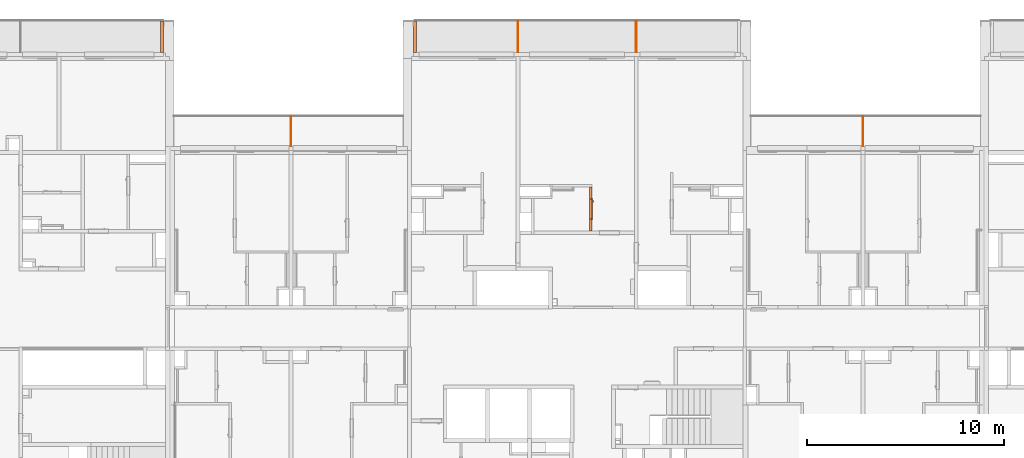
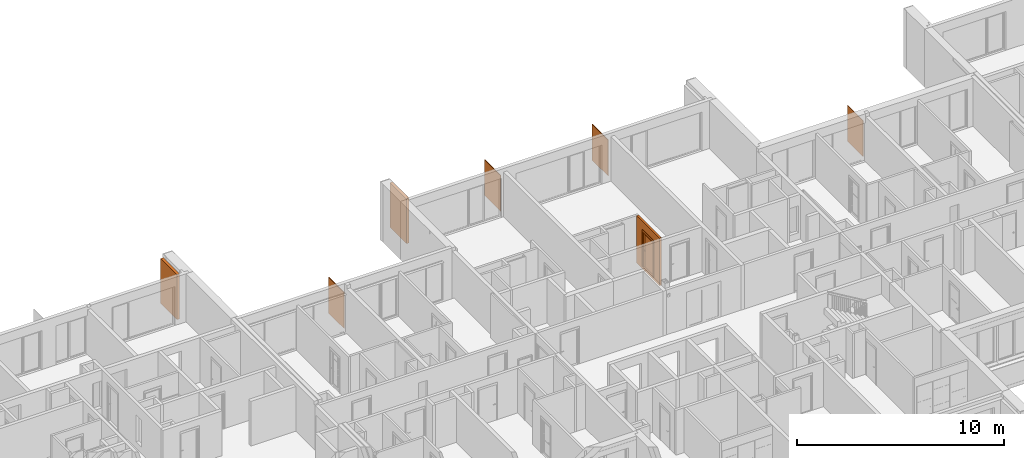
# One storey, part 33 of 67: 8 proxies, 1 opening.
"""IFC2X3 building model written with IfcOpenShell, lengths in millimetres."""

from ifc_helpers import new_model, entity, si_unit, converted_unit, derived_unit, money_unit, direction, frame, origin_with_axes, origin_2d_with_axis, place, context, subcontext, project, spatial, polyline, rectangle, outline, extrude, open_shell, faceted_brep, surface_model, source, transform, mapped, material, type_object, element, fill, save


model = new_model("IFC2X3")

# Units and contexts
model_context = context("Model", 3, precision=0.01, world=origin_with_axes(), true_north=direction((0.34421633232, 0.938890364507)))
body_context = subcontext(model_context, "Body", "Model", "MODEL_VIEW")
ifc_project = project(units=[si_unit("LENGTHUNIT", "METRE", prefix="MILLI"), si_unit("AREAUNIT", "SQUARE_METRE"), si_unit("VOLUMEUNIT", "CUBIC_METRE"), converted_unit("PLANEANGLEUNIT", "DEGREE", entity("IfcPlaneAngleMeasure", 0.0174532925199), si_unit("PLANEANGLEUNIT", "RADIAN"), dimensions=[0, 0, 0, 0, 0, 0, 0]), si_unit("SOLIDANGLEUNIT", "STERADIAN"), money_unit("USD"), converted_unit("TIMEUNIT", "Year", entity("IfcTimeMeasure", 31556926.0), si_unit("TIMEUNIT", "SECOND"), dimensions=[0, 0, 1, 0, 0, 0, 0]), si_unit("MASSUNIT", "GRAM", prefix="KILO"), si_unit("THERMODYNAMICTEMPERATUREUNIT", "DEGREE_CELSIUS"), si_unit("LUMINOUSINTENSITYUNIT", "LUMEN"), si_unit("ENERGYUNIT", "JOULE", prefix="MEGA"), derived_unit("THERMALCONDUCTANCEUNIT", [(si_unit("POWERUNIT", "WATT"), 1), (si_unit("LENGTHUNIT", "METRE"), -1), (si_unit("THERMODYNAMICTEMPERATUREUNIT", "KELVIN"), -1)]), derived_unit("SPECIFICHEATCAPACITYUNIT", [(si_unit("ENERGYUNIT", "JOULE"), 1), (si_unit("MASSUNIT", "GRAM", prefix="KILO"), -1), (si_unit("THERMODYNAMICTEMPERATUREUNIT", "KELVIN"), -1)]), derived_unit("MASSDENSITYUNIT", [(si_unit("MASSUNIT", "GRAM", prefix="KILO"), 1), (si_unit("VOLUMEUNIT", "CUBIC_METRE"), -1)])], contexts=[model_context])

# Site, building, storey
site_placement = place(None, origin_with_axes())
site = spatial("IfcSite", under=ifc_project, at=site_placement, Name="USTRONIE MORSKIE", CompositionType="ELEMENT")
building_placement = place(site_placement, origin_with_axes())
building = spatial("IfcBuilding", under=site, at=building_placement, Name="Budynek", CompositionType="ELEMENT")
storey_placement = place(building_placement, frame((0.0, 0.0, 4000.0), z_axis=(0.0, 0.0, 1.0), x_axis=(1.0, 0.0, 0.0)))
storey = spatial("IfcBuildingStorey", under=building, at=storey_placement, Name="PIĘTRO 1", CompositionType="ELEMENT", Elevation=4000.0)

# Proxies, opening
ifc_material_1 = material(Name="Bloczki silikatowe")
building_element_proxy_type_1 = type_object("IfcBuildingElementProxyType", Name="Bloczki silikatowe 120", PredefinedType="NOTDEFINED")
proxy_1_placement = place(storey_placement, frame((388517.920919, 743001.199021, -160.0), z_axis=(0.0, 0.0, 1.0), x_axis=(0.0, -1.0, 0.0)))
proxy_1 = element("IfcBuildingElementProxy", 1, at=proxy_1_placement, inside=storey, type_object=building_element_proxy_type_1, material=ifc_material_1, Name="SW-04", context=body_context, shape_type="Brep", body=[
    faceted_brep([(59.9999999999, -60.0, 0.0), (59.9999999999, -60.0, 2800.0), (59.9999999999, 60.0, 2800.0), (59.9999999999, 60.0, 0.0), (2279.99998521, -60.0, 0.0), (2279.99998521, -60.0, 2800.0), (2279.99998521, 60.0, 2800.0), (2279.99998521, 60.0, 0.0)], [[[0, 1, 2, 3]], [[4, 5, 1, 0]], [[5, 6, 2, 1]], [[3, 2, 6, 7]], [[0, 3, 7, 4]], [[7, 6, 5, 4]]]),
])
opening_placement = place(proxy_1_placement, frame((1170.0, 0.0, 160.0), z_axis=(0.0, 0.0, 1.0), x_axis=(1.0, 0.0, 0.0)))
opening = element("IfcOpeningElement", 2, at=opening_placement, cuts=proxy_1, Name="Dw.4'", context=body_context, shape_type="SweptSolid", body=[
    extrude(rectangle(XDim=1020.0, YDim=2070.0, at=origin_2d_with_axis()), frame((0.0, 120.0, 1035.0), z_axis=(0.0, -1.0, 0.0), x_axis=(1.0, 0.0, 0.0)), (0.0, 0.0, 1.0), 360.0),
    extrude(rectangle(XDim=1094.0, YDim=2177.0, at=origin_2d_with_axis()), frame((0.0, 60.0, 1088.5), z_axis=(0.0, -1.0, 0.0), x_axis=(1.0, 0.0, 0.0)), (0.0, 0.0, -1.0), 120.0),
    extrude(rectangle(XDim=1094.0, YDim=2177.0, at=origin_2d_with_axis()), frame((0.0, -60.0, 1088.5), z_axis=(0.0, 1.0, 0.0), x_axis=(1.0, 0.0, 0.0)), (0.0, 0.0, -1.0), 120.0),
])
building_element_proxy_type_2 = type_object("IfcBuildingElementProxyType", Name="Drzwi 23", PredefinedType="NOTDEFINED")
shared_shape = source(origin_with_axes(), body_context, "Body", "SurfaceModel", [
    faceted_brep([(-510.0, 0.0, 0.0), (-510.0, 5.0, 0.0), (-485.0, 5.0, 0.0), (-485.0, 0.0, 0.0), (-510.0, 0.0, 2070.0), (-510.0, 5.0, 2070.0), (-485.0, 5.0, 2045.0), (-485.0, 0.0, 2045.0)], [[[0, 1, 2, 3]], [[4, 5, 1, 0]], [[1, 5, 6, 2]], [[3, 2, 6, 7]], [[0, 3, 7, 4]], [[7, 6, 5, 4]]]),
    faceted_brep([(510.0, 0.0, 2070.0), (510.0, 5.0, 2070.0), (485.0, 5.0, 2045.0), (485.0, 0.0, 2045.0), (510.0, 0.0, 0.0), (510.0, 5.0, 0.0), (485.0, 5.0, 0.0), (485.0, 0.0, 0.0)], [[[0, 1, 2, 3]], [[4, 5, 1, 0]], [[1, 5, 6, 2]], [[3, 2, 6, 7]], [[0, 3, 7, 4]], [[7, 6, 5, 4]]]),
    faceted_brep([(-485.0, 0.0, 2045.0), (-485.0, 5.0, 2045.0), (485.0, 5.0, 2045.0), (485.0, 0.0, 2045.0), (-510.0, 0.0, 2070.0), (-510.0, 5.0, 2070.0), (510.0, 5.0, 2070.0), (510.0, 0.0, 2070.0)], [[[0, 1, 2, 3]], [[4, 5, 1, 0]], [[1, 5, 6, 2]], [[3, 2, 6, 7]], [[0, 3, 7, 4]], [[7, 6, 5, 4]]]),
    faceted_brep([(-547.0, 24.0, 0.0), (-497.0, 24.0, 0.0), (-497.0, 5.0, 0.0), (-547.0, 5.0, 0.0), (-547.0, 24.0, 2177.0), (-497.0, 24.0, 2057.0), (-497.0, 5.0, 2057.0), (-547.0, 5.0, 2177.0)], [[[0, 1, 2, 3]], [[0, 4, 5, 1]], [[1, 5, 6, 2]], [[3, 2, 6, 7]], [[4, 0, 3, 7]], [[5, 4, 7, 6]]]),
    faceted_brep([(547.0, 24.0, 2177.0), (497.0, 24.0, 2057.0), (497.0, 5.0, 2057.0), (547.0, 5.0, 2177.0), (547.0, 24.0, 0.0), (497.0, 24.0, 0.0), (497.0, 5.0, 0.0), (547.0, 5.0, 0.0)], [[[0, 1, 2, 3]], [[0, 4, 5, 1]], [[1, 5, 6, 2]], [[3, 2, 6, 7]], [[4, 0, 3, 7]], [[5, 4, 7, 6]]]),
    faceted_brep([(-547.0, 24.0, 2177.0), (-497.0, 24.0, 2057.0), (-497.0, 5.0, 2057.0), (-547.0, 5.0, 2177.0), (547.0, 24.0, 2177.0), (497.0, 24.0, 2057.0), (497.0, 5.0, 2057.0), (547.0, 5.0, 2177.0)], [[[0, 1, 2, 3]], [[0, 4, 5, 1]], [[1, 5, 6, 2]], [[3, 2, 6, 7]], [[4, 0, 3, 7]], [[5, 4, 7, 6]]]),
    faceted_brep([(-547.0, -134.0, 0.0), (-547.0, -115.0, 0.0), (-497.0, -115.0, 0.0), (-497.0, -134.0, 0.0), (-547.0, -134.0, 2177.0), (-547.0, -115.0, 2177.0), (-497.0, -115.0, 2057.0), (-497.0, -134.0, 2057.0)], [[[0, 1, 2, 3]], [[4, 5, 1, 0]], [[1, 5, 6, 2]], [[3, 2, 6, 7]], [[0, 3, 7, 4]], [[7, 6, 5, 4]]]),
    faceted_brep([(547.0, -134.0, 2177.0), (547.0, -115.0, 2177.0), (497.0, -115.0, 2057.0), (497.0, -134.0, 2057.0), (547.0, -134.0, 0.0), (547.0, -115.0, 0.0), (497.0, -115.0, 0.0), (497.0, -134.0, 0.0)], [[[0, 1, 2, 3]], [[4, 5, 1, 0]], [[1, 5, 6, 2]], [[3, 2, 6, 7]], [[0, 3, 7, 4]], [[7, 6, 5, 4]]]),
    faceted_brep([(-547.0, -134.0, 2177.0), (-547.0, -115.0, 2177.0), (-497.0, -115.0, 2057.0), (-497.0, -134.0, 2057.0), (547.0, -134.0, 2177.0), (547.0, -115.0, 2177.0), (497.0, -115.0, 2057.0), (497.0, -134.0, 2057.0)], [[[0, 1, 2, 3]], [[4, 5, 1, 0]], [[1, 5, 6, 2]], [[3, 2, 6, 7]], [[0, 3, 7, 4]], [[7, 6, 5, 4]]]),
    faceted_brep([(-450.0, -40.0, 0.0), (-450.0, -40.0, 2000.0), (-450.0, -115.0, 2000.0), (-450.0, -115.0, 0.0), (-462.0, -40.0, 2000.0), (-462.0, -40.0, 0.0), (-462.0, 0.0, 2000.0), (-510.0, 0.0, 2000.0), (-510.0, -115.0, 2000.0), (-510.0, -115.0, 0.0), (-510.0, 0.0, 0.0), (-462.0, 0.0, 0.0)], [[[0, 1, 2, 3]], [[4, 1, 0, 5]], [[4, 6, 7, 8, 2, 1]], [[3, 2, 8, 9]], [[5, 0, 3, 9, 10, 11]], [[6, 4, 5, 11]], [[6, 11, 10, 7]], [[10, 9, 8, 7]]]),
    faceted_brep([(462.0, -40.0, 2000.0), (450.0, -40.0, 2000.0), (450.0, -115.0, 2000.0), (510.0, -115.0, 2000.0), (510.0, 0.0, 2000.0), (462.0, 0.0, 2000.0), (462.0, -40.0, 0.0), (450.0, -40.0, 0.0), (450.0, -115.0, 0.0), (510.0, -115.0, 0.0), (510.0, 0.0, 0.0), (462.0, 0.0, 0.0)], [[[0, 1, 2, 3, 4, 5]], [[1, 0, 6, 7]], [[1, 7, 8, 2]], [[3, 2, 8, 9]], [[4, 3, 9, 10]], [[11, 5, 4, 10]], [[0, 5, 11, 6]], [[6, 11, 10, 9, 8, 7]]]),
    faceted_brep([(-462.0, 0.0, 2012.0), (-462.0, 0.0, 2000.0), (-510.0, 0.0, 2000.0), (-510.0, 0.0, 2070.0), (510.0, 0.0, 2070.0), (510.0, 0.0, 2000.0), (462.0, 0.0, 2000.0), (462.0, 0.0, 2012.0), (-462.0, -40.0, 2012.0), (-462.0, -40.0, 2000.0), (-450.0, -40.0, 2000.0), (-450.0, -115.0, 2000.0), (-510.0, -115.0, 2000.0), (-510.0, -115.0, 2070.0), (510.0, -115.0, 2070.0), (510.0, -115.0, 2000.0), (462.0, -40.0, 2000.0), (450.0, -115.0, 2000.0), (450.0, -40.0, 2000.0), (462.0, -40.0, 2012.0)], [[[0, 1, 2, 3, 4, 5, 6, 7]], [[1, 0, 8, 9]], [[9, 10, 11, 12, 2, 1]], [[2, 12, 13, 3]], [[3, 13, 14, 4]], [[4, 14, 15, 5]], [[16, 6, 5, 15, 17, 18]], [[7, 6, 16, 19]], [[0, 7, 19, 8]], [[16, 18, 10, 9, 8, 19]], [[10, 18, 17, 11]], [[17, 15, 14, 13, 12, 11]]]),
    faceted_brep([(-440.5, -40.0, 1060.0), (-440.5, -43.0, 1060.0), (-383.5, -43.0, 1060.0), (-383.5, -40.0, 1060.0), (-440.5, -40.0, 870.0), (-440.5, -43.0, 870.0), (-383.5, -43.0, 870.0), (-383.5, -40.0, 870.0)], [[[0, 1, 2, 3]], [[4, 5, 1, 0]], [[1, 5, 6, 2]], [[3, 2, 6, 7]], [[0, 3, 7, 4]], [[7, 6, 5, 4]]]),
    faceted_brep([(-412.0, -104.0, 990.0), (-412.0, -111.0, 990.0), (-417.0, -111.0, 991.339745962), (-417.0, -104.0, 991.339745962), (-387.0, -104.0, 990.0), (-387.0, -111.0, 990.0), (-387.0, -111.0, 1010.0), (-412.0, -111.0, 1010.0), (-417.0, -111.0, 1008.66025404), (-420.660254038, -111.0, 1005.0), (-422.0, -111.0, 1000.0), (-420.660254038, -111.0, 995.0), (-420.660254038, -104.0, 995.0), (-422.0, -104.0, 1000.0), (-420.660254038, -104.0, 1005.0), (-417.0, -104.0, 1008.66025404), (-412.0, -104.0, 1010.0), (-387.0, -104.0, 1010.0)], [[[0, 1, 2, 3]], [[4, 5, 1, 0]], [[1, 5, 6, 7, 8, 9, 10, 11, 2]], [[3, 2, 11, 12]], [[0, 3, 12, 13, 14, 15, 16, 17, 4]], [[17, 6, 5, 4]], [[16, 7, 6, 17]], [[15, 8, 7, 16]], [[14, 9, 8, 15]], [[13, 10, 9, 14]], [[12, 11, 10, 13]]]),
    surface_model("IfcShellBasedSurfaceModel", [(-387.0, -104.0, 1010.0), (-373.596090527, -111.0, 1009.60730092), (-373.901717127, -104.0, 1009.60730092), (-387.0, -111.0, 1010.0), (-346.890283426, -108.663544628, 1008.82190275), (-373.901717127, -104.0, 990.392699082), (-387.0, -104.0, 990.0), (-387.0, -111.0, 990.0), (-373.596090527, -111.0, 990.392699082), (-346.890283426, -108.663544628, 991.178097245), (-347.804837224, -101.716818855, 1008.82190275), (-347.804837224, -101.716818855, 991.178097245), (-320.489735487, -104.008415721, 991.963495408), (-320.489735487, -104.008415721, 1008.03650459), (-322.006256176, -97.1678329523, 1008.03650459), (-322.006256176, -97.1678329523, 991.963495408), (-294.59537082, -97.0700416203, 992.748893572), (-294.59537082, -97.0700416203, 1007.25110643), (-296.702316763, -90.3876628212, 1007.25110643), (-296.702316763, -90.3876628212, 992.748893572), (-286.538795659, -94.1376880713, 993.0), (-286.538795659, -94.1376880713, 1007.0), (-288.829442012, -87.5221707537, 1007.0), (-288.829442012, -87.5221707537, 993.0)], [open_shell([[[0, 1, 2]], [[0, 3, 1]], [[2, 1, 4]], [[0, 2, 5, 6]], [[3, 7, 8, 1]], [[1, 8, 9, 4]], [[2, 4, 10]], [[2, 10, 11, 5]], [[5, 7, 6]], [[5, 8, 7]], [[11, 9, 8]], [[4, 9, 12, 13]], [[10, 4, 13]], [[10, 14, 15, 11]], [[11, 8, 5]], [[15, 9, 11]], [[15, 12, 9]], [[13, 12, 16, 17]], [[10, 13, 14]], [[14, 18, 19, 15]], [[19, 12, 15]], [[19, 16, 12]], [[17, 16, 20, 21]], [[14, 13, 17]], [[14, 17, 18]], [[18, 22, 23, 19]], [[23, 16, 19]], [[23, 20, 16]], [[22, 21, 20, 23]], [[18, 17, 21]], [[18, 21, 22]]])]),
    faceted_brep([(-401.607695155, -53.0, 994.0), (-400.741669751, -43.0, 993.5), (-399.0, -43.0, 1000.0), (-400.0, -53.0, 1000.0), (-406.0, -53.0, 989.607695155), (-405.5, -43.0, 988.741669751), (-412.0, -43.0, 987.0), (-418.5, -43.0, 988.741669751), (-423.258330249, -43.0, 993.5), (-425.0, -43.0, 1000.0), (-423.258330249, -43.0, 1006.5), (-418.5, -43.0, 1011.25833025), (-412.0, -43.0, 1013.0), (-405.5, -43.0, 1011.25833025), (-400.741669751, -43.0, 1006.5), (-401.607695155, -53.0, 1006.0), (-406.0, -53.0, 1010.39230485), (-412.0, -53.0, 1012.0), (-418.0, -53.0, 1010.39230485), (-422.392304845, -53.0, 1006.0), (-424.0, -53.0, 1000.0), (-422.392304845, -53.0, 994.0), (-418.0, -53.0, 989.607695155), (-412.0, -53.0, 988.0)], [[[0, 1, 2, 3]], [[4, 5, 1, 0]], [[2, 1, 5, 6, 7, 8, 9, 10, 11, 12, 13, 14]], [[3, 2, 14, 15]], [[3, 15, 16, 17, 18, 19, 20, 21, 22, 23, 4, 0]], [[23, 6, 5, 4]], [[22, 7, 6, 23]], [[21, 8, 7, 22]], [[20, 9, 8, 21]], [[19, 10, 9, 20]], [[18, 11, 10, 19]], [[17, 12, 11, 18]], [[16, 13, 12, 17]], [[15, 14, 13, 16]]]),
    faceted_brep([(-394.679491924, -47.0, 895.0), (-392.947441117, -43.0, 894.0), (-390.0, -43.0, 905.0), (-392.0, -47.0, 905.0), (-402.0, -47.0, 887.679491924), (-401.0, -43.0, 885.947441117), (-412.0, -43.0, 883.0), (-423.0, -43.0, 885.947441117), (-431.052558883, -43.0, 894.0), (-434.0, -43.0, 905.0), (-431.052558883, -43.0, 916.0), (-423.0, -43.0, 924.052558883), (-412.0, -43.0, 927.0), (-401.0, -43.0, 924.052558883), (-392.947441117, -43.0, 916.0), (-394.679491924, -47.0, 915.0), (-402.0, -47.0, 922.320508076), (-412.0, -47.0, 925.0), (-422.0, -47.0, 922.320508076), (-429.320508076, -47.0, 915.0), (-432.0, -47.0, 905.0), (-429.320508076, -47.0, 895.0), (-422.0, -47.0, 887.679491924), (-412.0, -47.0, 885.0)], [[[0, 1, 2, 3]], [[4, 5, 1, 0]], [[2, 1, 5, 6, 7, 8, 9, 10, 11, 12, 13, 14]], [[3, 2, 14, 15]], [[3, 15, 16, 17, 18, 19, 20, 21, 22, 23, 4, 0]], [[23, 6, 5, 4]], [[22, 7, 6, 23]], [[21, 8, 7, 22]], [[20, 9, 8, 21]], [[19, 10, 9, 20]], [[18, 11, 10, 19]], [[17, 12, 11, 18]], [[16, 13, 12, 17]], [[15, 14, 13, 16]]]),
    faceted_brep([(-407.050252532, -49.0, 909.050252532), (-406.343145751, -47.0, 908.343145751), (-404.0, -47.0, 914.0), (-405.0, -49.0, 914.0), (-412.0, -49.0, 907.0), (-412.0, -47.0, 906.0), (-417.656854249, -47.0, 908.343145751), (-420.0, -47.0, 914.0), (-417.656854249, -47.0, 919.656854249), (-412.0, -47.0, 922.0), (-406.343145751, -47.0, 919.656854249), (-407.050252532, -49.0, 918.949747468), (-412.0, -49.0, 921.0), (-416.949747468, -49.0, 918.949747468), (-419.0, -49.0, 914.0), (-416.949747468, -49.0, 909.050252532)], [[[0, 1, 2, 3]], [[4, 5, 1, 0]], [[2, 1, 5, 6, 7, 8, 9, 10]], [[3, 2, 10, 11]], [[3, 11, 12, 13, 14, 15, 4, 0]], [[15, 6, 5, 4]], [[14, 7, 6, 15]], [[13, 8, 7, 14]], [[12, 9, 8, 13]], [[11, 10, 9, 12]]]),
    faceted_brep([(-412.0, -53.0, 1010.0), (-412.0, -104.0, 1010.0), (-407.0, -104.0, 1008.66025404), (-407.0, -53.0, 1008.66025404), (-417.0, -53.0, 1008.66025404), (-417.0, -104.0, 1008.66025404), (-420.660254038, -104.0, 1005.0), (-422.0, -104.0, 1000.0), (-420.660254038, -104.0, 995.0), (-417.0, -104.0, 991.339745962), (-412.0, -104.0, 990.0), (-407.0, -104.0, 991.339745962), (-403.339745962, -104.0, 995.0), (-402.0, -104.0, 1000.0), (-403.339745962, -104.0, 1005.0), (-403.339745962, -53.0, 1005.0), (-402.0, -53.0, 1000.0), (-403.339745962, -53.0, 995.0), (-407.0, -53.0, 991.339745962), (-412.0, -53.0, 990.0), (-417.0, -53.0, 991.339745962), (-420.660254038, -53.0, 995.0), (-422.0, -53.0, 1000.0), (-420.660254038, -53.0, 1005.0)], [[[0, 1, 2, 3]], [[4, 5, 1, 0]], [[1, 5, 6, 7, 8, 9, 10, 11, 12, 13, 14, 2]], [[3, 2, 14, 15]], [[0, 3, 15, 16, 17, 18, 19, 20, 21, 22, 23, 4]], [[23, 6, 5, 4]], [[22, 7, 6, 23]], [[21, 8, 7, 22]], [[20, 9, 8, 21]], [[19, 10, 9, 20]], [[18, 11, 10, 19]], [[17, 12, 11, 18]], [[16, 13, 12, 17]], [[15, 14, 13, 16]]]),
    faceted_brep([(-440.5, 0.0, 1060.0), (-383.5, 0.0, 1060.0), (-383.5, 3.0, 1060.0), (-440.5, 3.0, 1060.0), (-440.5, 0.0, 870.0), (-383.5, 0.0, 870.0), (-383.5, 3.0, 870.0), (-440.5, 3.0, 870.0)], [[[0, 1, 2, 3]], [[0, 4, 5, 1]], [[1, 5, 6, 2]], [[3, 2, 6, 7]], [[4, 0, 3, 7]], [[5, 4, 7, 6]]]),
    faceted_brep([(-412.0, 64.0, 990.0), (-417.0, 64.0, 991.339745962), (-417.0, 71.0, 991.339745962), (-412.0, 71.0, 990.0), (-387.0, 64.0, 990.0), (-387.0, 64.0, 1010.0), (-412.0, 64.0, 1010.0), (-417.0, 64.0, 1008.66025404), (-420.660254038, 64.0, 1005.0), (-422.0, 64.0, 1000.0), (-420.660254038, 64.0, 995.0), (-420.660254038, 71.0, 995.0), (-422.0, 71.0, 1000.0), (-420.660254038, 71.0, 1005.0), (-417.0, 71.0, 1008.66025404), (-412.0, 71.0, 1010.0), (-387.0, 71.0, 1010.0), (-387.0, 71.0, 990.0)], [[[0, 1, 2, 3]], [[0, 4, 5, 6, 7, 8, 9, 10, 1]], [[1, 10, 11, 2]], [[3, 2, 11, 12, 13, 14, 15, 16, 17]], [[4, 0, 3, 17]], [[5, 4, 17, 16]], [[6, 5, 16, 15]], [[7, 6, 15, 14]], [[8, 7, 14, 13]], [[9, 8, 13, 12]], [[10, 9, 12, 11]]]),
    surface_model("IfcShellBasedSurfaceModel", [(-387.0, 64.0, 1010.0), (-373.901717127, 64.0, 1009.60730092), (-373.596090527, 71.0, 1009.60730092), (-387.0, 64.0, 990.0), (-373.901717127, 64.0, 990.392699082), (-346.890283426, 68.6635446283, 1008.82190275), (-387.0, 71.0, 1010.0), (-387.0, 71.0, 990.0), (-347.804837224, 61.716818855, 991.178097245), (-347.804837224, 61.716818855, 1008.82190275), (-346.890283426, 68.6635446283, 991.178097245), (-373.596090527, 71.0, 990.392699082), (-322.006256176, 57.1678329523, 991.963495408), (-322.006256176, 57.1678329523, 1008.03650459), (-320.489735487, 64.0084157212, 1008.03650459), (-320.489735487, 64.0084157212, 991.963495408), (-296.702316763, 50.3876628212, 992.748893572), (-296.702316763, 50.3876628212, 1007.25110643), (-294.59537082, 57.0700416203, 1007.25110643), (-294.59537082, 57.0700416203, 992.748893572), (-288.829442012, 47.5221707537, 993.0), (-288.829442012, 47.5221707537, 1007.0), (-286.538795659, 54.1376880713, 1007.0), (-286.538795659, 54.1376880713, 993.0)], [open_shell([[[0, 1, 2]], [[0, 3, 4, 1]], [[1, 5, 2]], [[0, 2, 6]], [[4, 3, 7]], [[1, 4, 8, 9]], [[1, 9, 5]], [[2, 5, 10, 11]], [[6, 2, 11, 7]], [[4, 7, 11]], [[8, 4, 11]], [[9, 8, 12, 13]], [[9, 14, 5]], [[5, 14, 15, 10]], [[8, 11, 10]], [[12, 8, 10]], [[13, 12, 16, 17]], [[9, 13, 14]], [[14, 18, 19, 15]], [[12, 10, 15]], [[16, 12, 15]], [[17, 16, 20, 21]], [[13, 17, 18]], [[13, 18, 14]], [[18, 22, 23, 19]], [[16, 15, 19]], [[20, 16, 19]], [[21, 20, 23, 22]], [[17, 21, 22]], [[17, 22, 18]], [[20, 19, 23]]])]),
    faceted_brep([(-401.607695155, 13.0, 994.0), (-400.0, 13.0, 1000.0), (-399.0, 3.0, 1000.0), (-400.741669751, 3.0, 993.5), (-406.0, 13.0, 989.607695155), (-412.0, 13.0, 988.0), (-418.0, 13.0, 989.607695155), (-422.392304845, 13.0, 994.0), (-424.0, 13.0, 1000.0), (-422.392304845, 13.0, 1006.0), (-418.0, 13.0, 1010.39230485), (-412.0, 13.0, 1012.0), (-406.0, 13.0, 1010.39230485), (-401.607695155, 13.0, 1006.0), (-400.741669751, 3.0, 1006.5), (-405.5, 3.0, 1011.25833025), (-412.0, 3.0, 1013.0), (-418.5, 3.0, 1011.25833025), (-423.258330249, 3.0, 1006.5), (-425.0, 3.0, 1000.0), (-423.258330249, 3.0, 993.5), (-418.5, 3.0, 988.741669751), (-412.0, 3.0, 987.0), (-405.5, 3.0, 988.741669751)], [[[0, 1, 2, 3]], [[1, 0, 4, 5, 6, 7, 8, 9, 10, 11, 12, 13]], [[1, 13, 14, 2]], [[2, 14, 15, 16, 17, 18, 19, 20, 21, 22, 23, 3]], [[4, 0, 3, 23]], [[5, 4, 23, 22]], [[6, 5, 22, 21]], [[7, 6, 21, 20]], [[8, 7, 20, 19]], [[9, 8, 19, 18]], [[10, 9, 18, 17]], [[11, 10, 17, 16]], [[12, 11, 16, 15]], [[13, 12, 15, 14]]]),
    faceted_brep([(-394.679491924, 7.0, 895.0), (-392.0, 7.0, 905.0), (-390.0, 3.0, 905.0), (-392.947441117, 3.0, 894.0), (-402.0, 7.0, 887.679491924), (-412.0, 7.0, 885.0), (-422.0, 7.0, 887.679491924), (-429.320508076, 7.0, 895.0), (-432.0, 7.0, 905.0), (-429.320508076, 7.0, 915.0), (-422.0, 7.0, 922.320508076), (-412.0, 7.0, 925.0), (-402.0, 7.0, 922.320508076), (-394.679491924, 7.0, 915.0), (-392.947441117, 3.0, 916.0), (-401.0, 3.0, 924.052558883), (-412.0, 3.0, 927.0), (-423.0, 3.0, 924.052558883), (-431.052558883, 3.0, 916.0), (-434.0, 3.0, 905.0), (-431.052558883, 3.0, 894.0), (-423.0, 3.0, 885.947441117), (-412.0, 3.0, 883.0), (-401.0, 3.0, 885.947441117)], [[[0, 1, 2, 3]], [[1, 0, 4, 5, 6, 7, 8, 9, 10, 11, 12, 13]], [[1, 13, 14, 2]], [[2, 14, 15, 16, 17, 18, 19, 20, 21, 22, 23, 3]], [[4, 0, 3, 23]], [[5, 4, 23, 22]], [[6, 5, 22, 21]], [[7, 6, 21, 20]], [[8, 7, 20, 19]], [[9, 8, 19, 18]], [[10, 9, 18, 17]], [[11, 10, 17, 16]], [[12, 11, 16, 15]], [[13, 12, 15, 14]]]),
    faceted_brep([(-407.050252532, 9.0, 909.050252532), (-405.0, 9.0, 914.0), (-404.0, 7.0, 914.0), (-406.343145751, 7.0, 908.343145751), (-412.0, 9.0, 907.0), (-416.949747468, 9.0, 909.050252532), (-419.0, 9.0, 914.0), (-416.949747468, 9.0, 918.949747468), (-412.0, 9.0, 921.0), (-407.050252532, 9.0, 918.949747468), (-406.343145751, 7.0, 919.656854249), (-412.0, 7.0, 922.0), (-417.656854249, 7.0, 919.656854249), (-420.0, 7.0, 914.0), (-417.656854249, 7.0, 908.343145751), (-412.0, 7.0, 906.0)], [[[0, 1, 2, 3]], [[1, 0, 4, 5, 6, 7, 8, 9]], [[1, 9, 10, 2]], [[2, 10, 11, 12, 13, 14, 15, 3]], [[4, 0, 3, 15]], [[5, 4, 15, 14]], [[6, 5, 14, 13]], [[7, 6, 13, 12]], [[8, 7, 12, 11]], [[9, 8, 11, 10]]]),
    faceted_brep([(-412.0, 13.0, 1010.0), (-407.0, 13.0, 1008.66025404), (-407.0, 64.0, 1008.66025404), (-412.0, 64.0, 1010.0), (-417.0, 13.0, 1008.66025404), (-420.660254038, 13.0, 1005.0), (-422.0, 13.0, 1000.0), (-420.660254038, 13.0, 995.0), (-417.0, 13.0, 991.339745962), (-412.0, 13.0, 990.0), (-407.0, 13.0, 991.339745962), (-403.339745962, 13.0, 995.0), (-402.0, 13.0, 1000.0), (-403.339745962, 13.0, 1005.0), (-403.339745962, 64.0, 1005.0), (-402.0, 64.0, 1000.0), (-403.339745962, 64.0, 995.0), (-407.0, 64.0, 991.339745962), (-412.0, 64.0, 990.0), (-417.0, 64.0, 991.339745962), (-420.660254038, 64.0, 995.0), (-422.0, 64.0, 1000.0), (-420.660254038, 64.0, 1005.0), (-417.0, 64.0, 1008.66025404)], [[[0, 1, 2, 3]], [[0, 4, 5, 6, 7, 8, 9, 10, 11, 12, 13, 1]], [[1, 13, 14, 2]], [[3, 2, 14, 15, 16, 17, 18, 19, 20, 21, 22, 23]], [[4, 0, 3, 23]], [[5, 4, 23, 22]], [[6, 5, 22, 21]], [[7, 6, 21, 20]], [[8, 7, 20, 19]], [[9, 8, 19, 18]], [[10, 9, 18, 17]], [[11, 10, 17, 16]], [[12, 11, 16, 15]], [[13, 12, 15, 14]]]),
    faceted_brep([(462.0, 0.0, 0.0), (462.0, -40.0, 0.0), (-462.0, -40.0, 0.0), (-462.0, 0.0, 0.0), (462.0, 0.0, 2012.0), (462.0, -40.0, 2012.0), (-462.0, -40.0, 2012.0), (-462.0, 0.0, 2012.0)], [[[0, 1, 2, 3]], [[4, 5, 1, 0]], [[1, 5, 6, 2]], [[3, 2, 6, 7]], [[0, 3, 7, 4]], [[7, 6, 5, 4]]]),
])
proxy_2_placement = place(opening_placement, frame((-450.0, 0.0, 0.0), z_axis=(0.0, 0.0, 1.0), x_axis=(1.0, 0.0, 0.0)))
proxy_2 = element("IfcBuildingElementProxy", 3, at=proxy_2_placement, inside=storey, type_object=building_element_proxy_type_2, Name="Dw.4'", context=body_context, shape_type="MappedRepresentation", body=[
    mapped(shared_shape, transform((450.0, 55.0, 0.0))),
])
fill(opening, proxy_2)

# Proxies
ifc_material_2 = material(Name="Woda")
building_element_proxy_type_3 = type_object("IfcBuildingElementProxyType", Name="Woda 30", PredefinedType="NOTDEFINED")
proxy_3_placement = place(storey_placement, frame((384817.920919, 749771.199036, 20.0), z_axis=(0.0, 0.0, 1.0), x_axis=(0.0, 1.0, 0.0)))
element("IfcBuildingElementProxy", 4, at=proxy_3_placement, inside=storey, type_object=building_element_proxy_type_3, material=ifc_material_2, Name="Œciana-007", context=body_context, shape_type="SweptSolid", body=[
    extrude(outline(polyline([(0.0, -15.0), (1569.89482814, -15.0), (1569.89482814, 15.0), (0.0, 15.0), (0.0, -15.0)])), origin_with_axes(), (0.0, 0.0, 1.0), 2120.0),
])
proxy_4_placement = place(storey_placement, frame((373317.920919, 745021.206184, 20.0), z_axis=(0.0, 0.0, 1.0), x_axis=(0.0, 1.0, 0.0)))
element("IfcBuildingElementProxy", 5, at=proxy_4_placement, inside=storey, type_object=building_element_proxy_type_3, material=ifc_material_2, Name="Œciana-007", context=body_context, shape_type="SweptSolid", body=[
    extrude(outline(polyline([(0.0, -15.0), (1500.0, -15.0), (1500.0, 15.0), (0.0, 15.0), (0.0, -15.0)])), origin_with_axes(), (0.0, 0.0, 1.0), 2120.0),
])
proxy_5_placement = place(storey_placement, frame((390817.920919, 749771.199036, 20.0), z_axis=(0.0, 0.0, 1.0), x_axis=(0.0, 1.0, 0.0)))
element("IfcBuildingElementProxy", 6, at=proxy_5_placement, inside=storey, type_object=building_element_proxy_type_3, material=ifc_material_2, Name="Œciana-007", context=body_context, shape_type="SweptSolid", body=[
    extrude(outline(polyline([(0.0, -15.0), (1569.94970077, -15.0), (1569.94970077, 15.0), (0.0, 15.0), (0.0, -15.0)])), origin_with_axes(), (0.0, 0.0, 1.0), 2120.0),
])
proxy_6_placement = place(storey_placement, frame((402317.920919, 745021.206184, 20.0), z_axis=(0.0, 0.0, 1.0), x_axis=(0.0, 1.0, 0.0)))
element("IfcBuildingElementProxy", 7, at=proxy_6_placement, inside=storey, type_object=building_element_proxy_type_3, material=ifc_material_2, Name="Œciana-007", context=body_context, shape_type="SweptSolid", body=[
    extrude(outline(polyline([(0.0, -15.0), (1500.0, -15.0), (1500.0, 15.0), (0.0, 15.0), (0.0, -15.0)])), origin_with_axes(), (0.0, 0.0, 1.0), 2120.0),
])
ifc_material_3 = material(Name="Laminat")
building_element_proxy_type_4 = type_object("IfcBuildingElementProxyType", Name="Laminat 150", PredefinedType="NOTDEFINED")
for number, where, z_axis, x_axis in (
    (8, (366782.920919, 749761.199036, -30.000001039), (0.0, 0.0, 1.0), (0.0, 1.0, 0.0)),
    (9, (379602.920919, 749761.199036, -30.000001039), (0.0, 0.0, 1.0), (0.0, 1.0, 0.0)),
):
    element("IfcBuildingElementProxy", number, at=place(storey_placement, frame(where, z_axis=z_axis, x_axis=x_axis)), inside=storey, type_object=building_element_proxy_type_4, material=ifc_material_3, context=body_context, shape_type="SweptSolid", body=[
        extrude(outline(polyline([(0.0, -75.0), (1590.0, -75.0), (1590.0, 75.0), (0.0, 75.0), (0.0, -75.0)])), origin_with_axes(), (0.0, 0.0, 1.0), 2650.00000104),
    ])

save(model, "model.ifc")
